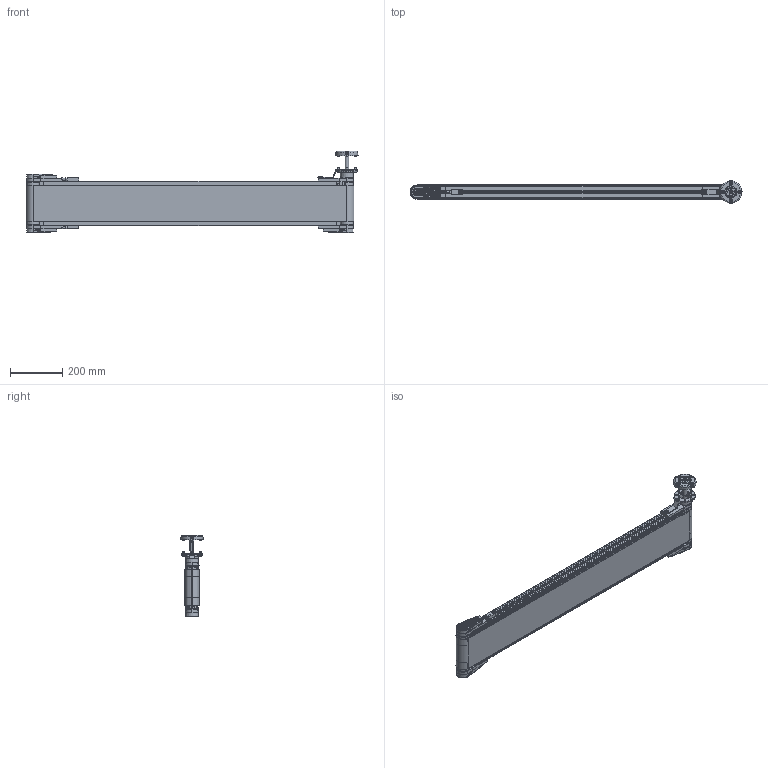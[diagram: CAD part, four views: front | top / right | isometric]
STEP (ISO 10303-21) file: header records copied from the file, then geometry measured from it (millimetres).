
FILE_DESCRIPTION (( 'STEP AP203' ), '1' );
FILE_NAME ('NASTRO_RETTILINEO_TAPPETO.step', '2026-05-29T10:07:02', ( 'Utente Windows' ), ( '' ), 'SwSTEP 2.0', 'SolidWorks 2024', '' );
FILE_SCHEMA (( 'CONFIG_CONTROL_DESIGN' ));
Length unit declared in the file: millimetre
Products named in the file (43): 084.301.000 VITI ALUSIC_084.301.003; BLOCCO_PERNO_50_30; CHIAVETTE_A 5x5x40 UNI 6604-69; 084.807.004_084.807.004; 084.802.008; 084.802.071; 084.810.001; VITE_RONDELLA_M8X20; BLOCCO_RINVIO_50_CORTA; 084.802.065_Default<A macchina>; VITI TCEI UNI 5931_M4x10 UNI 5931; BLOCCO_TRAINO_50_CORTA; BLOCCO_TRAINO_50_CORTA_30_DX; 084.802.061; 084.302.000 DADI ALUSIC 13x13_084.302.004; VITI TSEI UNI 5933_M4x10 UNI 5933; 084.807.013_084.807.003; VITI TCEI UNI 5931_M6x12 UNI 5931; 084.802.017_084.802.017; BLOCCO_BRACCIO_CH03P_VF30P; NASTRO_RETTILINEO_TAPPETO; 14UNI7435; 084.803.018; 084.302.000 DADI ALUSIC 13x13-1_084.302.004; VITI TCEI UNI 5931_M4x25 UNI 5931; RONDELLE FASCIA LARGA UNI 6593_5.4x20 UNI 6593; 084.808.012; VITI TSEI UNI 5933_M5x12 UNI 5933; 084.301.000 VITI ALUSIC_084.301.009; 084.811.004; LAMIERA_STANDARD; VITE_DADO_M5X12; 0820ISO2342; TAPPETO_STANDARD; BLOCCO_PERNO_50_RINVIO; 084.802.062; RULLO_50_Default<A macchina>; 084.302.000 DADI ALUSIC 13x13-1_084.302.007; 084.303.001; CHIAVETTE_A 5x5x20 UNI 6604-69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
Assembly tree (83 placements, depth 4):
  NASTRO_RETTILINEO_TAPPETO
    TAPPETO_STANDARD
    TELAIO_50_STANDARD_Default<A macchina>
    LAMIERA_STANDARD
    RULLO_50_Default<A macchina>  x2
    BLOCCO_PERNO_50_30
      084.810.001
      084.811.001
      RONDELLE FASCIA LARGA UNI 6593_5.4x20 UNI 6593
      084.301.000 VITI ALUSIC_084.301.009
      CHIAVETTE_A 5x5x40 UNI 6604-69
      CHIAVETTE_A 5x5x20 UNI 6604-69
      14UNI7435
    BLOCCO_TRAINO_50_CORTA_30_DX
      084.807.013_084.807.003
      084.802.017_084.802.017
      084.301.000 VITI ALUSIC_084.301.003  x2
      084.302.000 DADI ALUSIC 13x13-1_084.302.004  x2
      BLOCCO_BRACCIO_CH03P_VF30P
        084.808.012
        084.802.062
        0820ISO2342
        084.802.061
        VITI TE UNI 5739_M6x16 UNI 5739  x4
        084.803.018
        VITI TCEI UNI 5931_M6x12 UNI 5931  x4
      084.802.065_Default<A macchina>
      VITI TCEI UNI 5931_M4x25 UNI 5931  x2
    BLOCCO_PERNO_50_RINVIO  x3
      084.811.004
      084.810.001
    BLOCCO_TRAINO_50_CORTA
      084.807.004_084.807.004
      084.802.017_084.802.017
      084.301.000 VITI ALUSIC_084.301.003  x2
      084.302.000 DADI ALUSIC 13x13-1_084.302.004  x2
      VITI TSEI UNI 5933_M4x10 UNI 5933  x2
      084.802.071
    BLOCCO_RINVIO_50_CORTA  x2
      084.807.004_084.807.004
      084.802.017_084.802.017
      084.802.008
      084.301.000 VITI ALUSIC_084.301.003
      084.302.000 DADI ALUSIC 13x13_084.302.004
      VITI TCEI UNI 5931_M4x10 UNI 5931
      084.802.071
    VITE_RONDELLA_M8X20  x5
      084.303.001
      084.301.000 VITI ALUSIC_084.301.003
    VITE_DADO_M5X12  x8
      084.302.000 DADI ALUSIC 13x13-1_084.302.007
      VITI TSEI UNI 5933_M5x12 UNI 5933
Bounding box: 1269.5 x 84.99 x 311.5 mm (x, y, z)
Volume: 3208914.5 mm3; surface area: 3065184.2 mm2
Topology: 120 solids, 124 shells, 6030 faces, 15690 edges, 10068 vertices
Faces by surface type: plane 2853, cylinder 1689, bspline 572, cone 541, torus 337, sphere 38
Entity records: 129794 total; most frequent: CARTESIAN_POINT 40152, ORIENTED_EDGE 18506, DIRECTION 16427, EDGE_CURVE 9253, VERTEX_POINT 5979, AXIS2_PLACEMENT_3D 5618, VECTOR 5191, LINE 5191
